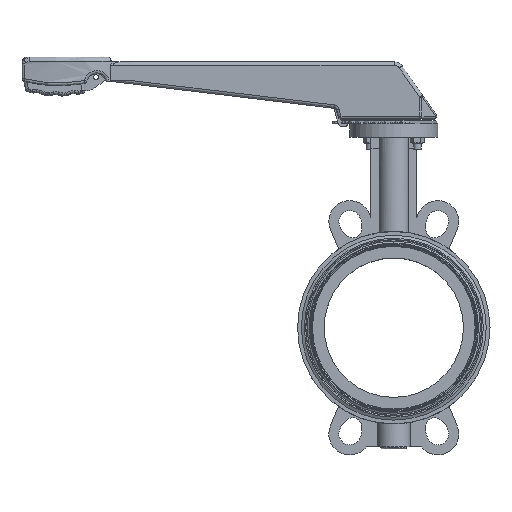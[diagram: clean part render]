
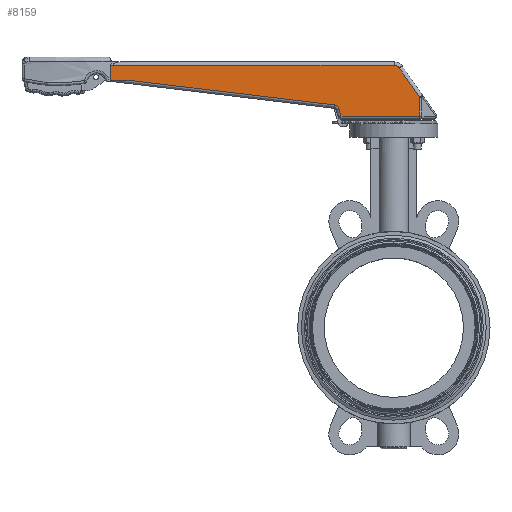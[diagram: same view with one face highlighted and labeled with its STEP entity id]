
A CAD part, top view. The second image highlights one B-rep face of the part: STEP entity #8159.
In plain terms, the highlighted planar face has unit normal (-0.017, 0, 1).
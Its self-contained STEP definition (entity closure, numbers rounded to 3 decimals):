
#6222=CARTESIAN_POINT('',(-297.25,259.,15.));
#6223=VERTEX_POINT('',#6222);
#6231=CARTESIAN_POINT('',(-297.25,276.05,15.));
#6232=VERTEX_POINT('',#6231);
#6233=CARTESIAN_POINT('',(-297.25,276.05,15.));
#6234=DIRECTION('',(0.0,-1.0,0.0));
#6235=VECTOR('',#6234,17.05);
#6236=LINE('',#6233,#6235);
#6237=EDGE_CURVE('',#6232,#6223,#6236,.T.);
#6376=CARTESIAN_POINT('',(-271.748,259.,15.421));
#6377=VERTEX_POINT('',#6376);
#6385=CARTESIAN_POINT('',(-297.25,259.,15.));
#6386=DIRECTION('',(1.,0.0,0.016));
#6387=VECTOR('',#6386,25.505);
#6388=LINE('',#6385,#6387);
#6389=EDGE_CURVE('',#6223,#6377,#6388,.T.);
#7772=CARTESIAN_POINT('',(-55.412,222.,18.991));
#7773=VERTEX_POINT('',#7772);
#7781=CARTESIAN_POINT('',(-57.397,229.408,18.958));
#7782=VERTEX_POINT('',#7781);
#7783=CARTESIAN_POINT('',(-55.412,222.,18.991));
#7784=DIRECTION('',(-0.259,0.966,-0.004));
#7785=VECTOR('',#7784,7.67);
#7786=LINE('',#7783,#7785);
#7787=EDGE_CURVE('',#7773,#7782,#7786,.T.);
#7905=CARTESIAN_POINT('',(-62.478,233.812,18.874));
#7906=VERTEX_POINT('',#7905);
#7914=CARTESIAN_POINT('',(-62.478,233.812,18.874));
#7915=DIRECTION('',(-0.993,0.119,-0.016));
#7916=VECTOR('',#7915,210.809);
#7917=LINE('',#7914,#7916);
#7918=EDGE_CURVE('',#7906,#6377,#7917,.T.);
#7949=CARTESIAN_POINT('',(-63.195,227.855,18.862));
#7950=DIRECTION('',(-0.016,0.,1.));
#7951=DIRECTION('',(1.,0.,0.016));
#7952=AXIS2_PLACEMENT_3D('',#7949,#7950,#7951);
#7953=ELLIPSE('',#7952,6.003,6.);
#7954=EDGE_CURVE('',#7782,#7906,#7953,.T.);
#8099=CARTESIAN_POINT('',(-297.25,284.,15.));
#8100=DIRECTION('',(-0.016,0.,1.));
#8101=DIRECTION('',(0.0,1.0,0.0));
#8102=AXIS2_PLACEMENT_3D('',#8099,#8100,#8101);
#8103=PLANE('',#8102);
#8104=CARTESIAN_POINT('',(27.365,241.77,20.357));
#8105=VERTEX_POINT('',#8104);
#8106=CARTESIAN_POINT('',(27.365,222.,20.357));
#8107=VERTEX_POINT('',#8106);
#8108=CARTESIAN_POINT('',(27.365,241.77,20.357));
#8109=DIRECTION('',(0.0,-1.0,0.0));
#8110=VECTOR('',#8109,19.77);
#8111=LINE('',#8108,#8110);
#8112=EDGE_CURVE('',#8105,#8107,#8111,.T.);
#8113=ORIENTED_EDGE('',*,*,#8112,.F.);
#8114=CARTESIAN_POINT('',(5.728,272.671,20.));
#8115=VERTEX_POINT('',#8114);
#8116=CARTESIAN_POINT('',(5.728,272.671,20.));
#8117=DIRECTION('',(0.574,-0.819,0.009));
#8118=VECTOR('',#8117,37.725);
#8119=LINE('',#8116,#8118);
#8120=EDGE_CURVE('',#8115,#8105,#8119,.T.);
#8121=ORIENTED_EDGE('',*,*,#8120,.F.);
#8122=CARTESIAN_POINT('',(0.485,275.4,19.913));
#8123=VERTEX_POINT('',#8122);
#8124=CARTESIAN_POINT('',(0.485,269.,19.913));
#8125=DIRECTION('',(0.016,0.,-1.));
#8126=DIRECTION('',(1.,0.,0.016));
#8127=AXIS2_PLACEMENT_3D('',#8124,#8125,#8126);
#8128=ELLIPSE('',#8127,6.401,6.4);
#8129=EDGE_CURVE('',#8123,#8115,#8128,.T.);
#8130=ORIENTED_EDGE('',*,*,#8129,.F.);
#8131=CARTESIAN_POINT('',(-294.393,275.4,15.047));
#8132=VERTEX_POINT('',#8131);
#8133=CARTESIAN_POINT('',(-294.393,275.4,15.047));
#8134=DIRECTION('',(1.,0.0,0.016));
#8135=VECTOR('',#8134,294.918);
#8136=LINE('',#8133,#8135);
#8137=EDGE_CURVE('',#8132,#8123,#8136,.T.);
#8138=ORIENTED_EDGE('',*,*,#8137,.F.);
#8139=CARTESIAN_POINT('',(-297.249,276.05,15.));
#8140=CARTESIAN_POINT('',(-296.361,275.624,15.015));
#8141=CARTESIAN_POINT('',(-295.372,275.4,15.031));
#8142=CARTESIAN_POINT('',(-294.393,275.4,15.047));
#8143=B_SPLINE_CURVE_WITH_KNOTS('',3,(#8139,#8140,#8141,#8142),.UNSPECIFIED.,.F.,.U.,(4,4),(0.627,0.921),.UNSPECIFIED.);
#8144=EDGE_CURVE('',#6232,#8132,#8143,.T.);
#8145=ORIENTED_EDGE('',*,*,#8144,.F.);
#8146=ORIENTED_EDGE('',*,*,#6237,.T.);
#8147=ORIENTED_EDGE('',*,*,#6389,.T.);
#8148=ORIENTED_EDGE('',*,*,#7918,.F.);
#8149=ORIENTED_EDGE('',*,*,#7954,.F.);
#8150=ORIENTED_EDGE('',*,*,#7787,.F.);
#8151=CARTESIAN_POINT('',(27.365,222.,20.357));
#8152=DIRECTION('',(-1.,0.0,-0.016));
#8153=VECTOR('',#8152,82.788);
#8154=LINE('',#8151,#8153);
#8155=EDGE_CURVE('',#8107,#7773,#8154,.T.);
#8156=ORIENTED_EDGE('',*,*,#8155,.F.);
#8157=EDGE_LOOP('',(#8113,#8121,#8130,#8138,#8145,#8146,#8147,#8148,#8149,#8150,#8156));
#8158=FACE_OUTER_BOUND('',#8157,.T.);
#8159=ADVANCED_FACE('',(#8158),#8103,.T.);
